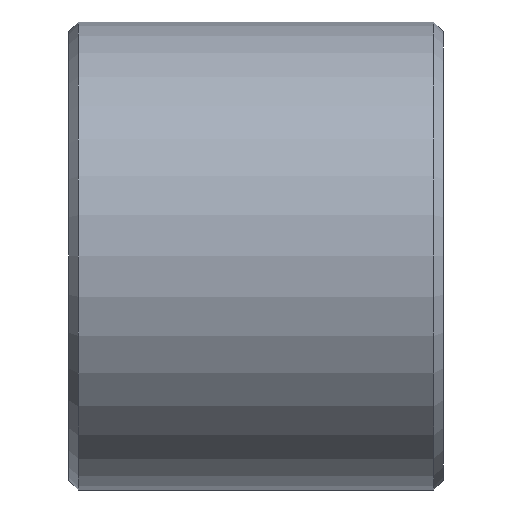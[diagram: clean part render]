
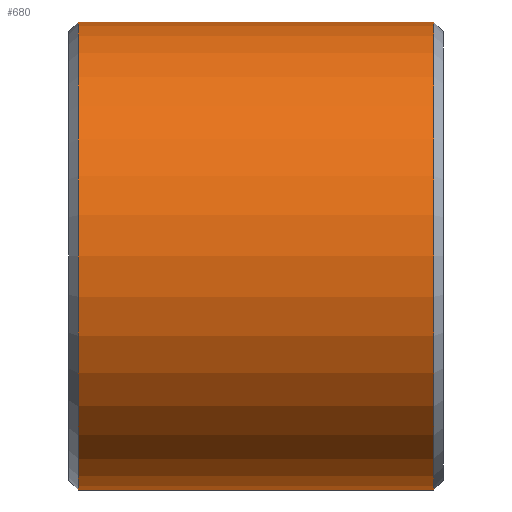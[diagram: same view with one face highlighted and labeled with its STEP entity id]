
A CAD part, left-side view. The second image highlights one B-rep face of the part: STEP entity #680.
In plain terms, the highlighted cylindrical face has radius 12.5 mm (diameter 25 mm), a partial arc.
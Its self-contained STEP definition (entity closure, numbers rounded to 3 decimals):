
#36 = ORIENTED_EDGE ( 'NONE', *, *, #902, .T. ) ;
#37 = AXIS2_PLACEMENT_3D ( 'NONE', #495, #488, #916 ) ;
#38 = CARTESIAN_POINT ( 'NONE',  ( 0., -18., 0. ) ) ;
#57 = CIRCLE ( 'NONE', #110, 12.5 ) ;
#110 = AXIS2_PLACEMENT_3D ( 'NONE', #38, #163, #802 ) ;
#144 = EDGE_LOOP ( 'NONE', ( #237, #315, #36, #322 ) ) ;
#163 = DIRECTION ( 'NONE',  ( 0., 1., 0. ) ) ;
#237 = ORIENTED_EDGE ( 'NONE', *, *, #989, .F. ) ;
#264 = CARTESIAN_POINT ( 'NONE',  ( 0., 1., -12.5 ) ) ;
#304 = DIRECTION ( 'NONE',  ( 0., 1., 0. ) ) ;
#315 = ORIENTED_EDGE ( 'NONE', *, *, #502, .T. ) ;
#322 = ORIENTED_EDGE ( 'NONE', *, *, #471, .T. ) ;
#433 = VECTOR ( 'NONE', #304, 1000. ) ;
#471 = EDGE_CURVE ( 'NONE', #956, #652, #1015, .T. ) ;
#488 = DIRECTION ( 'NONE',  ( 0., -1., 0. ) ) ;
#495 = CARTESIAN_POINT ( 'NONE',  ( 0., 1., 0. ) ) ;
#502 = EDGE_CURVE ( 'NONE', #742, #632, #57, .T. ) ;
#516 = LINE ( 'NONE', #1167, #433 ) ;
#632 = VERTEX_POINT ( 'NONE', #1242 ) ;
#652 = VERTEX_POINT ( 'NONE', #264 ) ;
#680 = ADVANCED_FACE ( 'NONE', ( #734 ), #1179, .T. ) ;
#709 = AXIS2_PLACEMENT_3D ( 'NONE', #818, #824, #1249 ) ;
#734 = FACE_OUTER_BOUND ( 'NONE', #144, .T. ) ;
#742 = VERTEX_POINT ( 'NONE', #830 ) ;
#802 = DIRECTION ( 'NONE',  ( 0., 0., -1. ) ) ;
#818 = CARTESIAN_POINT ( 'NONE',  ( 0., 65.513, 0. ) ) ;
#824 = DIRECTION ( 'NONE',  ( 0., 1., 0. ) ) ;
#830 = CARTESIAN_POINT ( 'NONE',  ( 0., -18., -12.5 ) ) ;
#864 = VECTOR ( 'NONE', #980, 1000. ) ;
#902 = EDGE_CURVE ( 'NONE', #632, #956, #516, .T. ) ;
#916 = DIRECTION ( 'NONE',  ( 0., 0., 1. ) ) ;
#934 = LINE ( 'NONE', #1302, #864 ) ;
#956 = VERTEX_POINT ( 'NONE', #1267 ) ;
#980 = DIRECTION ( 'NONE',  ( 0., 1., 0. ) ) ;
#989 = EDGE_CURVE ( 'NONE', #742, #652, #934, .T. ) ;
#1015 = CIRCLE ( 'NONE', #37, 12.5 ) ;
#1167 = CARTESIAN_POINT ( 'NONE',  ( 0., 65.513, 12.5 ) ) ;
#1179 = CYLINDRICAL_SURFACE ( 'NONE', #709, 12.5 ) ;
#1242 = CARTESIAN_POINT ( 'NONE',  ( 0., -18., 12.5 ) ) ;
#1249 = DIRECTION ( 'NONE',  ( 0., 0., 1. ) ) ;
#1267 = CARTESIAN_POINT ( 'NONE',  ( 0., 1., 12.5 ) ) ;
#1302 = CARTESIAN_POINT ( 'NONE',  ( 0., 65.513, -12.5 ) ) ;
